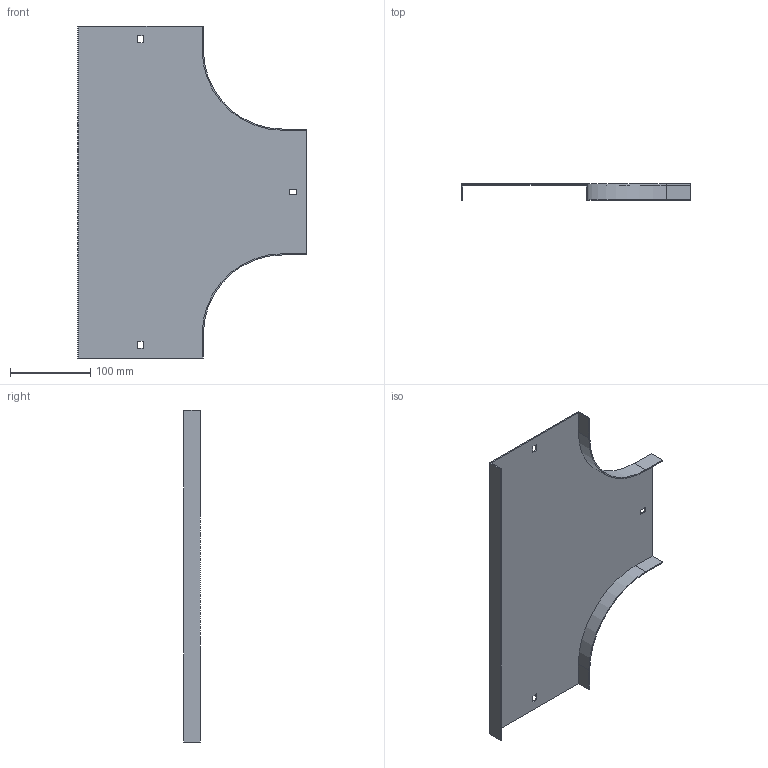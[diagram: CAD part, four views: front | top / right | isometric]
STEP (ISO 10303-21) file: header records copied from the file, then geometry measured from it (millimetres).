
FILE_DESCRIPTION (( 'STEP AP214' ), '1' );
FILE_NAME ('15G1R150.step', '2025-02-21T13:02:39', ( '' ), ( '' ), 'SwSTEP 2.0', 'SolidWorks 2023', '' );
FILE_SCHEMA (( 'AUTOMOTIVE_DESIGN' ));
Length unit declared in the file: millimetre
Products named in the file (1): 15G1R150
Bounding box: 285.5 x 20 x 414 mm (x, y, z)
Volume: 157212.9 mm3; surface area: 211894.9 mm2
Topology: 1 solids, 1 shells, 34 faces, 96 edges, 64 vertices
Faces by surface type: plane 30, cylinder 4
Entity records: 1123 total; most frequent: CARTESIAN_POINT 195, ORIENTED_EDGE 192, DIRECTION 174, EDGE_CURVE 96, VECTOR 88, LINE 88, VERTEX_POINT 64, AXIS2_PLACEMENT_3D 43
